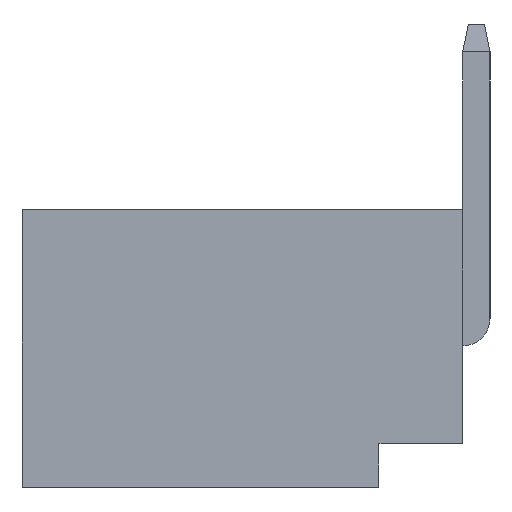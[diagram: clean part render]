
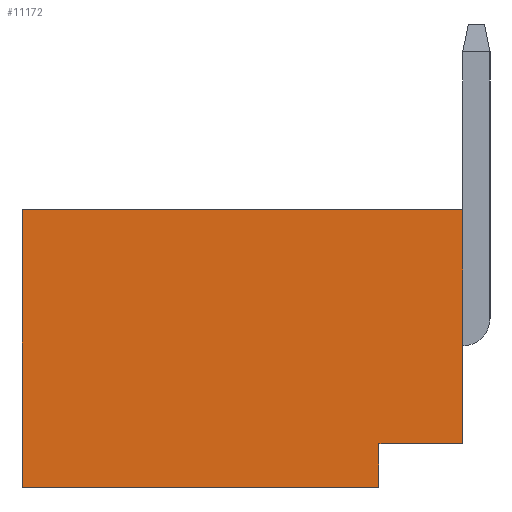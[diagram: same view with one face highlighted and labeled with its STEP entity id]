
A CAD part, left-side view. The second image highlights one B-rep face of the part: STEP entity #11172.
In plain terms, the highlighted planar face has unit normal (-1, 0, 0).
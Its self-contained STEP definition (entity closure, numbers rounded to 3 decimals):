
#4027=CARTESIAN_POINT('Vertex',(-16.,-8.1,0.)) ;
#4030=CARTESIAN_POINT('Line Origine',(-16.,-8.1,-2.15)) ;
#4034=CARTESIAN_POINT('Vertex',(-16.,-8.1,-4.3)) ;
#6350=CARTESIAN_POINT('Vertex',(-16.,0.,-5.1)) ;
#6353=CARTESIAN_POINT('Line Origine',(-16.,0.,-2.55)) ;
#6357=CARTESIAN_POINT('Vertex',(-16.,0.,0.)) ;
#6554=CARTESIAN_POINT('Vertex',(-16.,-6.56,-5.1)) ;
#6557=CARTESIAN_POINT('Line Origine',(-16.,-3.28,-5.1)) ;
#10163=CARTESIAN_POINT('Vertex',(-16.,-6.56,-4.3)) ;
#10166=CARTESIAN_POINT('Line Origine',(-16.,-6.56,-4.7)) ;
#11149=CARTESIAN_POINT('Axis2P3D Location',(-16.,0.,0.)) ;
#11154=CARTESIAN_POINT('Line Origine',(-16.,-7.33,-4.3)) ;
#11159=CARTESIAN_POINT('Line Origine',(-16.,-4.05,0.)) ;
#4031=DIRECTION('Vector Direction',(0.,0.,1.)) ;
#6354=DIRECTION('Vector Direction',(0.,0.,-1.)) ;
#6558=DIRECTION('Vector Direction',(0.,-1.,0.)) ;
#10167=DIRECTION('Vector Direction',(0.,0.,1.)) ;
#11150=DIRECTION('Axis2P3D Direction',(-1.,0.,0.)) ;
#11151=DIRECTION('Axis2P3D XDirection',(-0.,-0.,-1.)) ;
#11155=DIRECTION('Vector Direction',(0.,-1.,0.)) ;
#11160=DIRECTION('Vector Direction',(0.,1.,0.)) ;
#11152=AXIS2_PLACEMENT_3D('Plane Axis2P3D',#11149,#11150,#11151) ;
#11165=ORIENTED_EDGE('',*,*,#6359,.T.) ;
#11166=ORIENTED_EDGE('',*,*,#6561,.T.) ;
#11167=ORIENTED_EDGE('',*,*,#10170,.T.) ;
#11168=ORIENTED_EDGE('',*,*,#11158,.T.) ;
#11169=ORIENTED_EDGE('',*,*,#4036,.T.) ;
#11170=ORIENTED_EDGE('',*,*,#11163,.T.) ;
#4032=VECTOR('Line Direction',#4031,1.) ;
#6355=VECTOR('Line Direction',#6354,1.) ;
#6559=VECTOR('Line Direction',#6558,1.) ;
#10168=VECTOR('Line Direction',#10167,1.) ;
#11156=VECTOR('Line Direction',#11155,1.) ;
#11161=VECTOR('Line Direction',#11160,1.) ;
#11172=ADVANCED_FACE('\X2\96F64EF651E04F554F53\X0\',(#11171),#11153,.T.) ;
#4036=EDGE_CURVE('',#4035,#4028,#4033,.T.) ;
#6359=EDGE_CURVE('',#6358,#6351,#6356,.T.) ;
#6561=EDGE_CURVE('',#6351,#6555,#6560,.T.) ;
#10170=EDGE_CURVE('',#6555,#10164,#10169,.T.) ;
#11158=EDGE_CURVE('',#10164,#4035,#11157,.T.) ;
#11163=EDGE_CURVE('',#4028,#6358,#11162,.T.) ;
#11164=EDGE_LOOP('',(#11165,#11166,#11167,#11168,#11169,#11170)) ;
#11171=FACE_OUTER_BOUND('',#11164,.T.) ;
#4033=LINE('Line',#4030,#4032) ;
#6356=LINE('Line',#6353,#6355) ;
#6560=LINE('Line',#6557,#6559) ;
#10169=LINE('Line',#10166,#10168) ;
#11157=LINE('Line',#11154,#11156) ;
#11162=LINE('Line',#11159,#11161) ;
#11153=PLANE('Plane',#11152) ;
#4028=VERTEX_POINT('',#4027) ;
#4035=VERTEX_POINT('',#4034) ;
#6351=VERTEX_POINT('',#6350) ;
#6358=VERTEX_POINT('',#6357) ;
#6555=VERTEX_POINT('',#6554) ;
#10164=VERTEX_POINT('',#10163) ;
